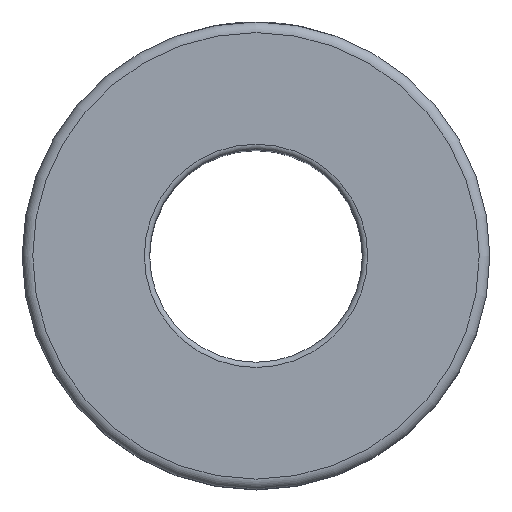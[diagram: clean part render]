
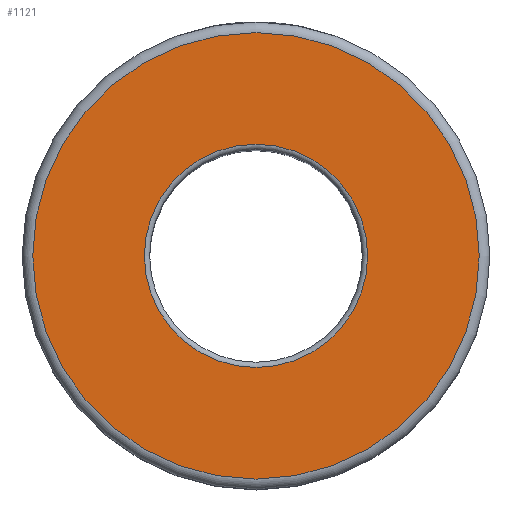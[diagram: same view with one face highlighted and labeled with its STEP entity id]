
A CAD part, top view. The second image highlights one B-rep face of the part: STEP entity #1121.
In plain terms, the highlighted planar face has unit normal (0, 0, 1).
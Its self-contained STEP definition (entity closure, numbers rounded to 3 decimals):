
#34=FACE_BOUND('',#402,.T.);
#231=PLANE('',#1233);
#332=FACE_OUTER_BOUND('',#401,.T.);
#401=EDGE_LOOP('',(#858));
#402=EDGE_LOOP('',(#859));
#487=CIRCLE('',#1229,10.5);
#491=CIRCLE('',#1234,21.);
#560=VERTEX_POINT('',#1988);
#563=VERTEX_POINT('',#1996);
#675=EDGE_CURVE('',#560,#560,#487,.T.);
#679=EDGE_CURVE('',#563,#563,#491,.T.);
#858=ORIENTED_EDGE('',*,*,#679,.F.);
#859=ORIENTED_EDGE('',*,*,#675,.F.);
#1121=ADVANCED_FACE('',(#332,#34),#231,.T.);
#1229=AXIS2_PLACEMENT_3D('',#1989,#1399,#1400);
#1233=AXIS2_PLACEMENT_3D('',#1995,#1407,#1408);
#1234=AXIS2_PLACEMENT_3D('',#1997,#1409,#1410);
#1399=DIRECTION('center_axis',(0.,0.,1.));
#1400=DIRECTION('ref_axis',(0.,1.,0.));
#1407=DIRECTION('center_axis',(0.,0.,1.));
#1408=DIRECTION('ref_axis',(1.,0.,0.));
#1409=DIRECTION('center_axis',(0.,0.,-1.));
#1410=DIRECTION('ref_axis',(0.,1.,0.));
#1988=CARTESIAN_POINT('',(10.5,0.,0.));
#1989=CARTESIAN_POINT('Origin',(0.,0.,0.));
#1995=CARTESIAN_POINT('Origin',(0.,-22.,0.));
#1996=CARTESIAN_POINT('',(21.,0.,0.));
#1997=CARTESIAN_POINT('Origin',(0.,0.,0.));
